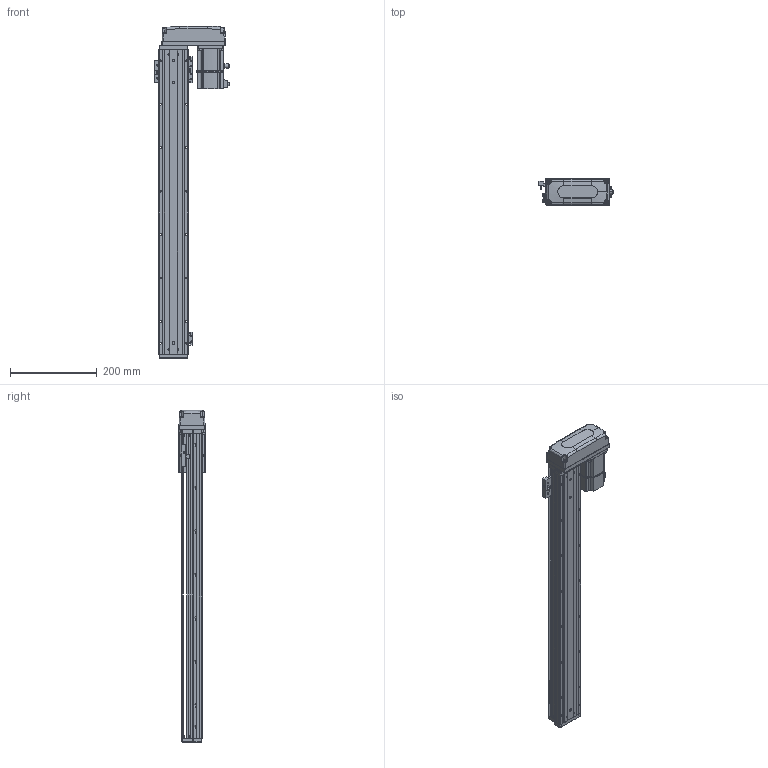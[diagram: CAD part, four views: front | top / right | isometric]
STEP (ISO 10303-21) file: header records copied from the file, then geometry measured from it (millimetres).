
FILE_DESCRIPTION (( 'STEP AP203' ), '1' );
FILE_NAME ('KTHA60-600-BL-M20-C4L.step', '2022-12-16T01:32:59', ( '微软用户' ), ( '微软中国' ), 'SwSTEP 2.0', 'SolidWorks 2020', '' );
FILE_SCHEMA (( 'CONFIG_CONTROL_DESIGN' ));
Length unit declared in the file: millimetre
Products named in the file (17): GBT 70.3-M3℅6; CTHA60-016; EE_SX911P_R; KTHA60-002; CTHA60-017; BTH80-026; KTHA60-001_700; CTHA60-021; CTHA60-006-2_CTHA60-006-2; KTHA60-004; GBT 70.1-M4×16; _X2_4E0983F1_X0_200W_1; KTHA60-005; GBT77-2000M3-3; KTHA60-600-BL-M20-C4L; GB¨uT 70.2-M3¡Á5_M3¡Á6; GBT 70.1-M3℅6
Assembly tree (51 placements, depth 2):
  KTHA60-600-BL-M20-C4L
    KTHA60-001_700
    KTHA60-004
    KTHA60-005
    GB¨uT 70.2-M3¡Á5_M3¡Á6  x6
    GBT 70.3-M3℅6  x4
    EE_SX911P_R  x3
    CTHA60-017  x3
    CTHA60-021  x2
    GBT 70.1-M4×16  x8
    GBT77-2000M3-3  x6
    GBT 70.1-M3℅6  x10
    CTHA60-016  x2
    KTHA60-002
    BTH80-026
    CTHA60-006-2_CTHA60-006-2
    _X2_4E0983F1_X0_200W_1
Bounding box: 172.1 x 62.42 x 764 mm (x, y, z)
Volume: 1627875.9 mm3; surface area: 431067.2 mm2
Topology: 54 solids, 54 shells, 2468 faces, 5885 edges, 3622 vertices
Faces by surface type: plane 1309, cylinder 656, cone 286, bspline 109, torus 92, sphere 16
Entity records: 46178 total; most frequent: CARTESIAN_POINT 10706, ORIENTED_EDGE 6818, DIRECTION 6808, EDGE_CURVE 3409, AXIS2_PLACEMENT_3D 2343, VERTEX_POINT 2131, LINE 2122, VECTOR 2122
